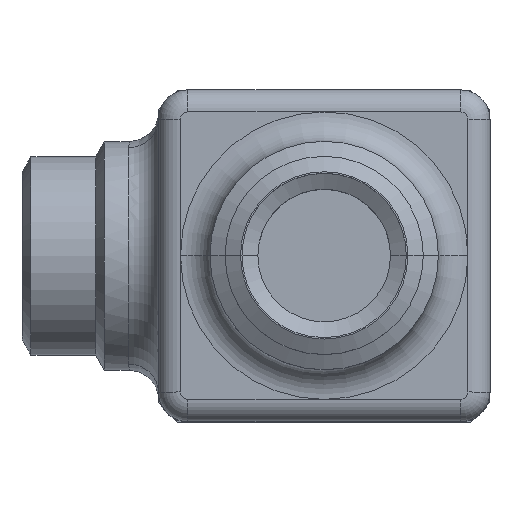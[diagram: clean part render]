
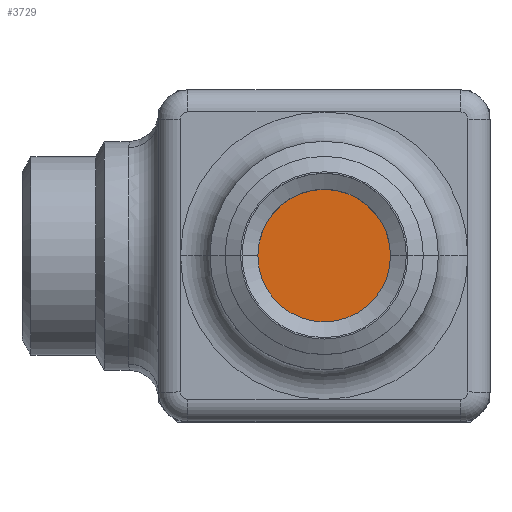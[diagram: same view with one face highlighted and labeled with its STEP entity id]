
A CAD part, top view. The second image highlights one B-rep face of the part: STEP entity #3729.
In plain terms, the highlighted planar face has unit normal (0, 0, 1).
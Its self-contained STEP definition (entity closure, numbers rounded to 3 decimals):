
#2415 = CARTESIAN_POINT ( 'NONE',  ( 15.5, 0., 3. ) ) ;
#2472 = FACE_OUTER_BOUND ( 'NONE', #7612, .T. ) ;
#2473 = PLANE ( 'NONE',  #2474 ) ;
#2474 = AXIS2_PLACEMENT_3D ( 'NONE', #2477, #2478, #2479 ) ;
#2477 = CARTESIAN_POINT ( 'NONE',  ( 0., 0., 3. ) ) ;
#2478 = DIRECTION ( 'NONE',  ( 0., 0., 1. ) ) ;
#2479 = DIRECTION ( 'NONE',  ( 1., 0., 0. ) ) ;
#2737 = CARTESIAN_POINT ( 'NONE',  ( -15.5, 0., 3. ) ) ;
#3729 = ADVANCED_FACE ( 'NONE', ( #2472 ), #2473, .T. ) ;
#3982 = ORIENTED_EDGE ( 'NONE', *, *, #4060, .T. ) ;
#4060 = EDGE_CURVE ( 'NONE', #4662, #8309, #7932, .T. ) ;
#4121 = ORIENTED_EDGE ( 'NONE', *, *, #4339, .T. ) ;
#4339 = EDGE_CURVE ( 'NONE', #8309, #4662, #5710, .T. ) ;
#4662 = VERTEX_POINT ( 'NONE', #2737 ) ;
#5710 = CIRCLE ( 'NONE', #5711, 15.5 ) ;
#5711 = AXIS2_PLACEMENT_3D ( 'NONE', #5712, #5713, #5714 ) ;
#5712 = CARTESIAN_POINT ( 'NONE',  ( 0., 0., 3. ) ) ;
#5713 = DIRECTION ( 'NONE',  ( 0., 0., 1. ) ) ;
#5714 = DIRECTION ( 'NONE',  ( 1., 0., 0. ) ) ;
#7612 = EDGE_LOOP ( 'NONE', ( #3982, #4121 ) ) ;
#7932 = CIRCLE ( 'NONE', #7933, 15.5 ) ;
#7933 = AXIS2_PLACEMENT_3D ( 'NONE', #7936, #7937, #7938 ) ;
#7936 = CARTESIAN_POINT ( 'NONE',  ( 0., 0., 3. ) ) ;
#7937 = DIRECTION ( 'NONE',  ( 0., 0., 1. ) ) ;
#7938 = DIRECTION ( 'NONE',  ( 1., 0., 0. ) ) ;
#8309 = VERTEX_POINT ( 'NONE', #2415 ) ;
